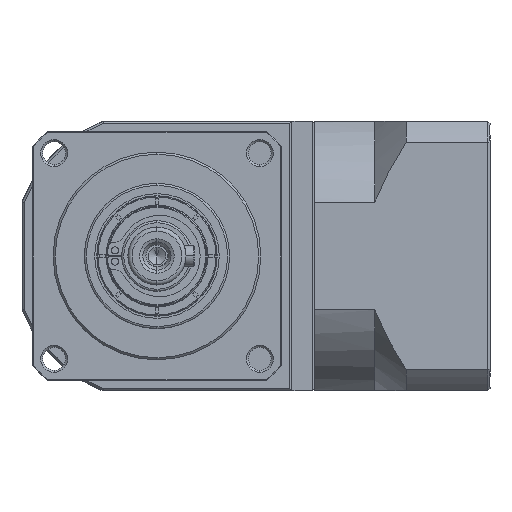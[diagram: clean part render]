
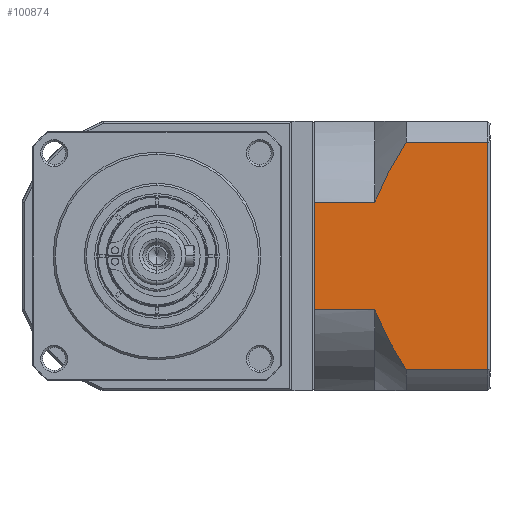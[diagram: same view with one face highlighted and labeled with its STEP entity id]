
A CAD part, left-side view. The second image highlights one B-rep face of the part: STEP entity #100874.
In plain terms, the highlighted planar face has unit normal (-1, 0, 0).
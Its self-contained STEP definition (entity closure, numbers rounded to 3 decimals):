
#357 = CARTESIAN_POINT ( 'NONE',  ( -22.541, -100.746, -97.39 ) ) ;
#3676 = VECTOR ( 'NONE', #32811, 1000. ) ;
#7253 = CARTESIAN_POINT ( 'NONE',  ( -22.541, -106.797, -85.283 ) ) ;
#8417 = CARTESIAN_POINT ( 'NONE',  ( -22.541, -108.246, -137.766 ) ) ;
#12784 = DIRECTION ( 'NONE',  ( 0., -1., 0. ) ) ;
#15096 = ORIENTED_EDGE ( 'NONE', *, *, #151951, .T. ) ;
#15578 = CARTESIAN_POINT ( 'NONE',  ( -22.541, -100.984, -124.013 ) ) ;
#19656 = LINE ( 'NONE', #95448, #110859 ) ;
#19785 = CARTESIAN_POINT ( 'NONE',  ( -22.541, -104.743, -88.804 ) ) ;
#20304 = CARTESIAN_POINT ( 'NONE',  ( -22.541, -100.746, -123.37 ) ) ;
#21200 = DIRECTION ( 'NONE',  ( 0., 0., -1. ) ) ;
#23076 = EDGE_CURVE ( 'NONE', #70879, #57422, #101452, .T. ) ;
#23291 = DIRECTION ( 'NONE',  ( 1., 0., 0. ) ) ;
#28373 = EDGE_CURVE ( 'NONE', #70879, #135098, #19656, .T. ) ;
#29126 = CARTESIAN_POINT ( 'NONE',  ( -22.541, -102.036, -126.537 ) ) ;
#29512 = CARTESIAN_POINT ( 'NONE',  ( -22.541, -100.746, -82.994 ) ) ;
#30461 = EDGE_CURVE ( 'NONE', #96198, #107868, #44287, .T. ) ;
#31444 = EDGE_CURVE ( 'NONE', #45797, #113501, #129548, .T. ) ;
#32256 = CARTESIAN_POINT ( 'NONE',  ( -22.541, -101.688, -94.852 ) ) ;
#32811 = DIRECTION ( 'NONE',  ( 0., 1., 0. ) ) ;
#34715 = ORIENTED_EDGE ( 'NONE', *, *, #114510, .T. ) ;
#34736 = PLANE ( 'NONE',  #155914 ) ;
#35889 = VERTEX_POINT ( 'NONE', #124148 ) ;
#35972 = DIRECTION ( 'NONE',  ( 0., 0., 1. ) ) ;
#41565 = CARTESIAN_POINT ( 'NONE',  ( -22.541, -103.492, -129.603 ) ) ;
#41939 = DIRECTION ( 'NONE',  ( 0., -1., 0. ) ) ;
#44287 = LINE ( 'NONE', #29512, #139363 ) ;
#45797 = VERTEX_POINT ( 'NONE', #160692 ) ;
#53486 = VECTOR ( 'NONE', #107543, 1000. ) ;
#53976 = CARTESIAN_POINT ( 'NONE',  ( -22.541, -106.784, -135.498 ) ) ;
#55877 = ORIENTED_EDGE ( 'NONE', *, *, #114549, .F. ) ;
#56609 = CARTESIAN_POINT ( 'NONE',  ( -22.541, -108.246, -82.994 ) ) ;
#57422 = VERTEX_POINT ( 'NONE', #105384 ) ;
#57646 = CARTESIAN_POINT ( 'NONE',  ( -22.541, -100.746, -137.766 ) ) ;
#61341 = CARTESIAN_POINT ( 'NONE',  ( -22.541, -86.246, -97.39 ) ) ;
#64628 = VECTOR ( 'NONE', #12784, 1000. ) ;
#70879 = VERTEX_POINT ( 'NONE', #61341 ) ;
#74185 = EDGE_CURVE ( 'NONE', #35889, #113501, #119432, .T. ) ;
#77775 = ORIENTED_EDGE ( 'NONE', *, *, #28373, .T. ) ;
#80047 = FACE_OUTER_BOUND ( 'NONE', #82912, .T. ) ;
#82912 = EDGE_LOOP ( 'NONE', ( #100341, #15096, #156659, #34715, #156983, #77775, #55877, #91230 ) ) ;
#89910 = CARTESIAN_POINT ( 'NONE',  ( -22.541, -108.246, -82.994 ) ) ;
#90866 = CARTESIAN_POINT ( 'NONE',  ( -22.541, -100.746, -123.37 ) ) ;
#91230 = ORIENTED_EDGE ( 'NONE', *, *, #31444, .T. ) ;
#94001 = CARTESIAN_POINT ( 'NONE',  ( -22.541, -105.413, -87.618 ) ) ;
#95448 = CARTESIAN_POINT ( 'NONE',  ( -22.541, -86.246, -142.88 ) ) ;
#96198 = VERTEX_POINT ( 'NONE', #89910 ) ;
#97550 = CARTESIAN_POINT ( 'NONE',  ( -22.541, -128.446, -142.88 ) ) ;
#97731 = CARTESIAN_POINT ( 'NONE',  ( -22.541, -127.946, -142.88 ) ) ;
#100341 = ORIENTED_EDGE ( 'NONE', *, *, #74185, .F. ) ;
#100874 = ADVANCED_FACE ( 'NONE', ( #80047 ), #34736, .F. ) ;
#101452 = LINE ( 'NONE', #357, #64628 ) ;
#101937 = CARTESIAN_POINT ( 'NONE',  ( -22.541, -127.946, -82.994 ) ) ;
#102619 = LINE ( 'NONE', #20304, #3676 ) ;
#102811 = CARTESIAN_POINT ( 'NONE',  ( -22.541, -101.237, -124.652 ) ) ;
#103350 = CARTESIAN_POINT ( 'NONE',  ( -22.541, -101.762, -125.913 ) ) ;
#105384 = CARTESIAN_POINT ( 'NONE',  ( -22.541, -100.746, -97.39 ) ) ;
#106511 = CARTESIAN_POINT ( 'NONE',  ( -22.541, -102.832, -92.4 ) ) ;
#107543 = DIRECTION ( 'NONE',  ( 0., 1., 0. ) ) ;
#107868 = VERTEX_POINT ( 'NONE', #101937 ) ;
#108284 = B_SPLINE_CURVE_WITH_KNOTS ( 'NONE', 3,
 ( #56609, #130884, #7253, #94001, #19785, #106511, #32256, #118956 ),
 .UNSPECIFIED., .F., .F.,
 ( 4, 2, 2, 4 ),
 ( 0.058, 0.062, 0.066, 0.074 ),
 .UNSPECIFIED. ) ;
#110017 = DIRECTION ( 'NONE',  ( 0., 1., 0. ) ) ;
#110859 = VECTOR ( 'NONE', #21200, 1000. ) ;
#113501 = VERTEX_POINT ( 'NONE', #8417 ) ;
#114510 = EDGE_CURVE ( 'NONE', #96198, #57422, #108284, .T. ) ;
#114549 = EDGE_CURVE ( 'NONE', #45797, #135098, #102619, .T. ) ;
#115425 = LINE ( 'NONE', #97731, #144472 ) ;
#115797 = CARTESIAN_POINT ( 'NONE',  ( -22.541, -102.886, -128.391 ) ) ;
#118956 = CARTESIAN_POINT ( 'NONE',  ( -22.541, -100.746, -97.39 ) ) ;
#119432 = LINE ( 'NONE', #57646, #53486 ) ;
#124148 = CARTESIAN_POINT ( 'NONE',  ( -22.541, -127.946, -137.766 ) ) ;
#128278 = CARTESIAN_POINT ( 'NONE',  ( -22.541, -105.396, -133.184 ) ) ;
#129548 = B_SPLINE_CURVE_WITH_KNOTS ( 'NONE', 3,
 ( #90866, #15578, #102811, #103350, #29126, #115797, #41565, #128278, #53976, #140753 ),
 .UNSPECIFIED., .F., .F.,
 ( 4, 2, 2, 2, 4 ),
 ( 0.101, 0.103, 0.105, 0.109, 0.117 ),
 .UNSPECIFIED. ) ;
#130884 = CARTESIAN_POINT ( 'NONE',  ( -22.541, -107.512, -84.132 ) ) ;
#135098 = VERTEX_POINT ( 'NONE', #151213 ) ;
#139363 = VECTOR ( 'NONE', #41939, 1000. ) ;
#140753 = CARTESIAN_POINT ( 'NONE',  ( -22.541, -108.246, -137.766 ) ) ;
#144472 = VECTOR ( 'NONE', #35972, 1000. ) ;
#151213 = CARTESIAN_POINT ( 'NONE',  ( -22.541, -86.246, -123.37 ) ) ;
#151951 = EDGE_CURVE ( 'NONE', #35889, #107868, #115425, .T. ) ;
#155914 = AXIS2_PLACEMENT_3D ( 'NONE', #97550, #23291, #110017 ) ;
#156659 = ORIENTED_EDGE ( 'NONE', *, *, #30461, .F. ) ;
#156983 = ORIENTED_EDGE ( 'NONE', *, *, #23076, .F. ) ;
#160692 = CARTESIAN_POINT ( 'NONE',  ( -22.541, -100.746, -123.37 ) ) ;
